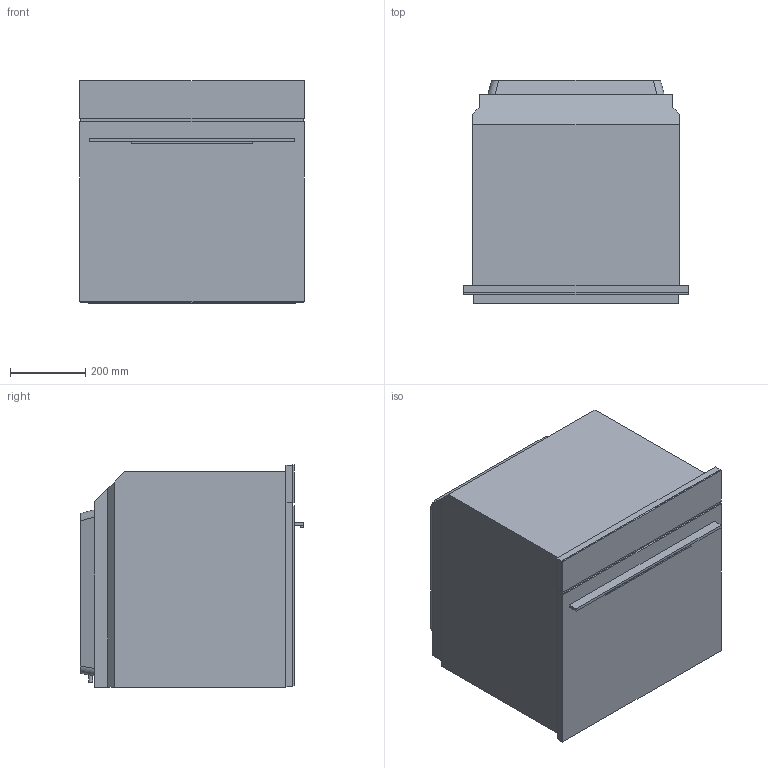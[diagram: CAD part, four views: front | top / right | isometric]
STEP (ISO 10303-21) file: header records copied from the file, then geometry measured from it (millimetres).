
FILE_DESCRIPTION(/* description */ ('Unknown'),/* implementation_level */ '2;1');
FILE_NAME(/* name */ 'SO6104APG',/* time_stamp */ '2025-10-21T09:45:36+02:00',/* author */ ('Unknown'),/* organization */ ('Unknown'),/* preprocessor_version */ 'ST-DEVELOPER v16.7',/* originating_system */ 'DEX',/* authorisation */ $);
FILE_SCHEMA (('AUTOMOTIVE_DESIGN {1 0 10303 214 3 1 1}'));
Length unit declared in the file: millimetre
Products named in the file (1): SO6104APG
Bounding box: 597 x 595.85 x 591.85 mm (x, y, z)
Volume: 174037100.9 mm3; surface area: 2637039.5 mm2
Topology: 3 solids, 3 shells, 57 faces, 144 edges, 96 vertices
Faces by surface type: plane 49, cylinder 5, cone 3
Full cylindrical faces by diameter (mm): 10 x1
Entity records: 1849 total; most frequent: CARTESIAN_POINT 297, ORIENTED_EDGE 270, DIRECTION 262, EDGE_CURVE 135, LINE 120, VECTOR 120, VERTEX_POINT 94, AXIS2_PLACEMENT_3D 71
